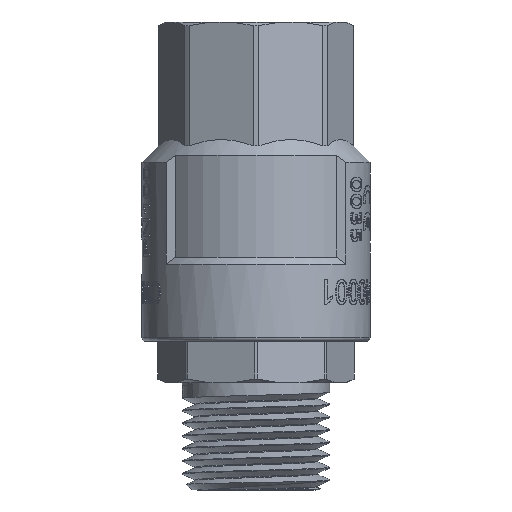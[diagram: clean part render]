
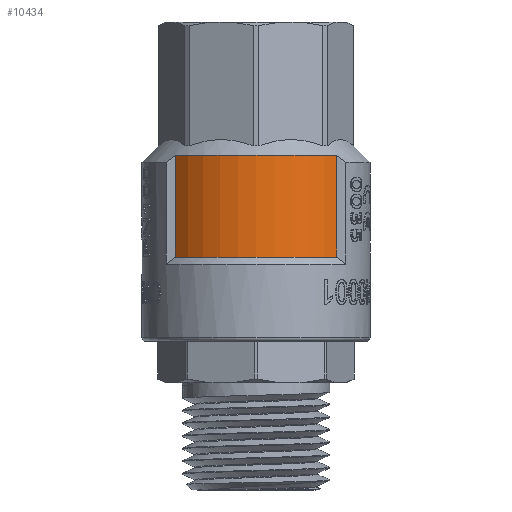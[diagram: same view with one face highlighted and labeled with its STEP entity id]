
A CAD part, front view. The second image highlights one B-rep face of the part: STEP entity #10434.
In plain terms, the highlighted cylindrical face has radius 15.25 mm (diameter 30.5 mm), a partial arc.
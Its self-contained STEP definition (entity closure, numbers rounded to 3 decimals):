
#1065=FACE_OUTER_BOUND('',#1705,.T.);
#1705=EDGE_LOOP('',(#9170,#9171,#9172,#9173));
#1999=CIRCLE('',#10975,15.25);
#2001=CIRCLE('',#10979,15.25);
#3212=LINE('',#27701,#3922);
#3213=LINE('',#27704,#3923);
#3922=VECTOR('',#12573,10.);
#3923=VECTOR('',#12576,10.);
#4908=VERTEX_POINT('',#27679);
#4909=VERTEX_POINT('',#27683);
#4912=VERTEX_POINT('',#27700);
#4913=VERTEX_POINT('',#27702);
#6368=EDGE_CURVE('',#4909,#4908,#1999,.T.);
#6373=EDGE_CURVE('',#4908,#4912,#3212,.T.);
#6374=EDGE_CURVE('',#4913,#4912,#2001,.T.);
#6375=EDGE_CURVE('',#4913,#4909,#3213,.T.);
#9170=ORIENTED_EDGE('',*,*,#6373,.T.);
#9171=ORIENTED_EDGE('',*,*,#6374,.F.);
#9172=ORIENTED_EDGE('',*,*,#6375,.T.);
#9173=ORIENTED_EDGE('',*,*,#6368,.T.);
#9939=CYLINDRICAL_SURFACE('',#10978,15.25);
#10434=ADVANCED_FACE('',(#1065),#9939,.T.);
#10975=AXIS2_PLACEMENT_3D('',#27684,#12565,#12566);
#10978=AXIS2_PLACEMENT_3D('',#27699,#12571,#12572);
#10979=AXIS2_PLACEMENT_3D('',#27703,#12574,#12575);
#12565=DIRECTION('center_axis',(0.,0.,1.));
#12566=DIRECTION('ref_axis',(1.,0.,0.));
#12571=DIRECTION('center_axis',(0.,0.,1.));
#12572=DIRECTION('ref_axis',(0.,-1.,0.));
#12573=DIRECTION('',(0.,0.,1.));
#12574=DIRECTION('center_axis',(0.,0.,1.));
#12575=DIRECTION('ref_axis',(1.,0.,0.));
#12576=DIRECTION('',(0.,0.,-1.));
#27679=CARTESIAN_POINT('',(11.514,-10.,-3.662));
#27683=CARTESIAN_POINT('',(-11.514,-10.,-3.662));
#27684=CARTESIAN_POINT('Origin',(0.,0.,-3.662));
#27699=CARTESIAN_POINT('Origin',(0.,0.,3.588));
#27700=CARTESIAN_POINT('',(11.514,-10.,10.838));
#27701=CARTESIAN_POINT('',(11.514,-10.,3.588));
#27702=CARTESIAN_POINT('',(-11.514,-10.,10.838));
#27703=CARTESIAN_POINT('Origin',(0.,0.,10.838));
#27704=CARTESIAN_POINT('',(-11.514,-10.,3.588));
